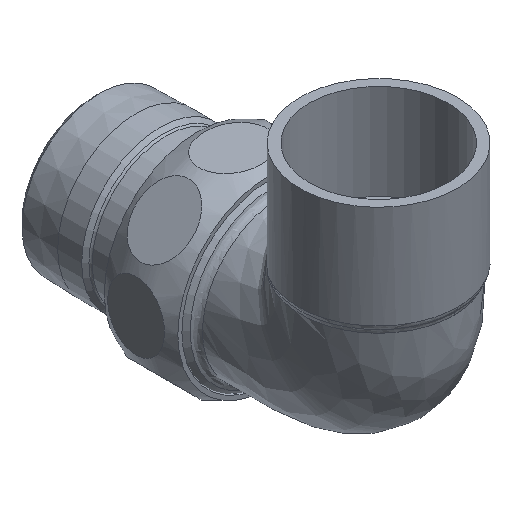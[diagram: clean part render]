
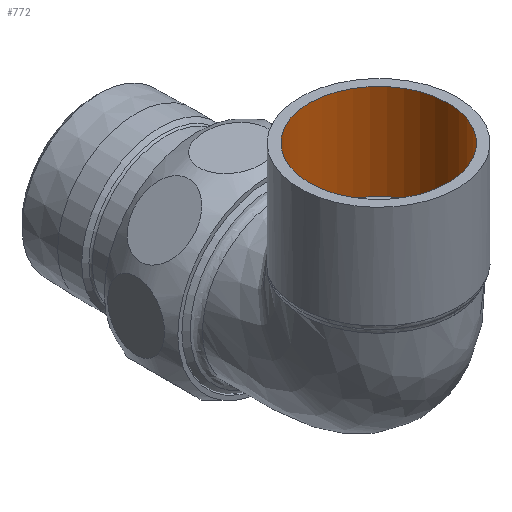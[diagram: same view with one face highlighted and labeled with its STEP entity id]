
A CAD part, isometric view. The second image highlights one B-rep face of the part: STEP entity #772.
In plain terms, the highlighted cylindrical face has radius 21.075 mm (diameter 42.15 mm), a full revolution.
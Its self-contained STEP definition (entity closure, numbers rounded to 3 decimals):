
#88=FACE_BOUND('',#208,.T.);
#121=CYLINDRICAL_SURFACE('',#837,21.075);
#147=FACE_OUTER_BOUND('',#207,.T.);
#207=EDGE_LOOP('',(#598));
#208=EDGE_LOOP('',(#599));
#343=CIRCLE('',#838,21.075);
#344=CIRCLE('',#839,21.075);
#400=VERTEX_POINT('',#2592);
#401=VERTEX_POINT('',#2594);
#485=EDGE_CURVE('',#400,#400,#343,.T.);
#486=EDGE_CURVE('',#401,#401,#344,.T.);
#598=ORIENTED_EDGE('',*,*,#485,.F.);
#599=ORIENTED_EDGE('',*,*,#486,.F.);
#772=ADVANCED_FACE('',(#147,#88),#121,.F.);
#837=AXIS2_PLACEMENT_3D('',#2591,#951,#952);
#838=AXIS2_PLACEMENT_3D('',#2593,#953,#954);
#839=AXIS2_PLACEMENT_3D('',#2595,#955,#956);
#951=DIRECTION('center_axis',(0.,0.,
-1.));
#952=DIRECTION('ref_axis',(-1.,0.,0.));
#953=DIRECTION('center_axis',(0.,0.,
1.));
#954=DIRECTION('ref_axis',(-1.,0.,0.));
#955=DIRECTION('center_axis',(0.,0.,
-1.));
#956=DIRECTION('ref_axis',(-1.,0.,0.));
#2591=CARTESIAN_POINT('Origin',(0.,0.,
53.));
#2592=CARTESIAN_POINT('',(21.075,0.,24.));
#2593=CARTESIAN_POINT('Origin',(0.,0.,
24.));
#2594=CARTESIAN_POINT('',(21.075,0.,53.));
#2595=CARTESIAN_POINT('Origin',(0.,0.,
53.));
